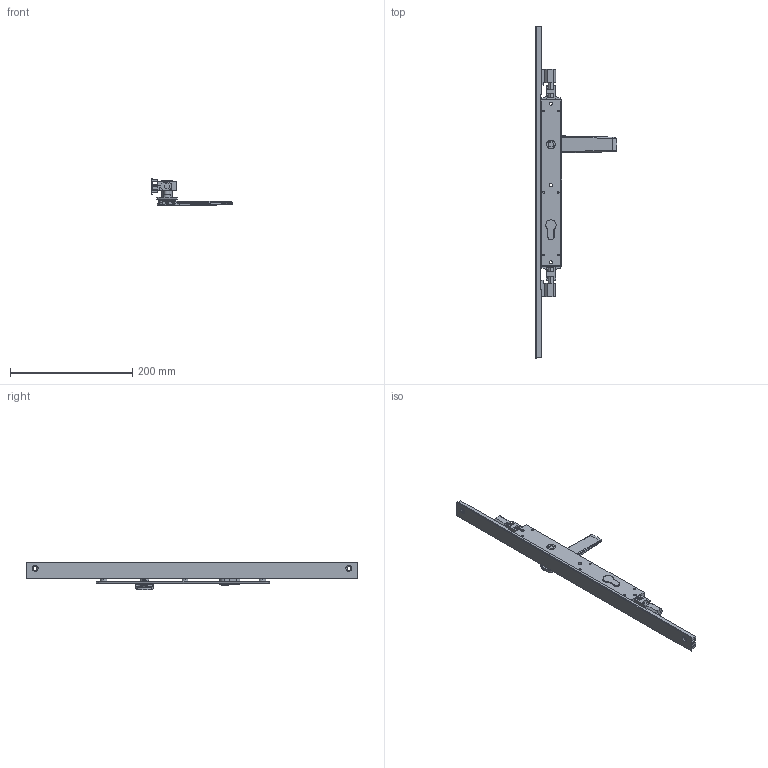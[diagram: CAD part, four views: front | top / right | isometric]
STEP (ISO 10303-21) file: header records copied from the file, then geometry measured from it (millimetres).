
FILE_DESCRIPTION (( 'STEP AP214' ), '1' );
FILE_NAME ('TPL-W-EU-617-U 06Nov2024.STEP', '2024-11-27T03:59:30', ( '' ), ( '' ), 'SwSTEP 2.0', 'SolidWorks 2023', '' );
FILE_SCHEMA (( 'AUTOMOTIVE_DESIGN' ));
Length unit declared in the file: millimetre
Products named in the file (19): Copy of Copy of LKC-531 Lock twinpoint transmission rod wood system^TPL-W-EU-117 04Nov2024_Standard Range 2891.7mm; TPL-W-EU-617-U 06Nov2024; Bolt.step; Copy (2) of COV-112-B Cover B suit TPLGen2 standard range^TPL-W-EU-117 04Nov2024_2870mm; Copy of Copy of Copy of LKC-531 Lock twinpoint transmission rod wood system^TPL-W-EU-117 04Nov2024_Standard Range 2891.7mm; Copy of LKC-584 Pivot body zinc - simplified^Copy of TPGen2 handle keyed internal zinc - simplified_TPL-W-EU-117 04Nov2024; Copy of TPLGen2 lock body keyed assembly^TPL-W-EU-117 04Nov2024_Bolts retracted; Copy of Adapter DnF - simplfied^TPL-W-EU-117 04Nov2024_26mm backset; Copy of LKC-585 Rotator body zinc^Copy of TPGen2 handle keyed internal zinc - simplified_TPL-W-EU-117 04Nov2024; Copy of Adapter CnE - simplfied^TPL-W-EU-117 04Nov2024_26mm backset; Copy of TPLGen2 lock body keyed^Copy of TPLGen2 lock body keyed assembly_TPL-W-EU-117 04Nov2024; Copy of COV-112-C Cover C TPLGen2 Lock body^TPL-W-EU-117 04Nov2024; Copy of LKC-505 Swing handle zinc - simplified^Copy of TPGen2 handle keyed internal zinc - simplified_TPL-W-EU-117 04Nov2024; Copy of LKC-586 Spindle square 8mm with M4 hole^Copy of TPGen2 handle keyed internal zinc - simplified_TPL-W-EU-117 04Nov2024_25mm; Copy of COV-112-A Cover A suit TPLGen2 standard range^TPL-W-EU-117 04Nov2024_2870mm; Copy of TPLGen2 push rod - simplified^Copy of TPLGen2 lock body keyed assembly_TPL-W-EU-117 04Nov2024_Female thread M10; Copy of LKC-512 Escutcheon plate keyed internal 285mm long zinc - simplified^Copy of TPGen2 handle keyed internal zinc - simplified_TPL-W-EU-117 04Nov2024; Copy of TPL-W-EU-130 04Nov2024^TPL-W-EU-117 04Nov2024_TPL-022 Right; Copy of TPGen2 handle keyed internal zinc - simplified^TPL-W-EU-117 04Nov2024_Left
Assembly tree (16 placements, depth 3):
  TPL-W-EU-617-U 06Nov2024
    Copy of TPLGen2 lock body keyed assembly^TPL-W-EU-117 04Nov2024_Bolts retracted
      Copy of TPLGen2 lock body keyed^Copy of TPLGen2 lock body keyed assembly_TPL-W-EU-117 04Nov2024
      Copy of TPLGen2 push rod - simplified^Copy of TPLGen2 lock body keyed assembly_TPL-W-EU-117 04Nov2024_Female thread M10  x2
    Copy of TPGen2 handle keyed internal zinc - simplified^TPL-W-EU-117 04Nov2024_Left
      Copy of LKC-512 Escutcheon plate keyed internal 285mm long zinc - simplified^Copy of TPGen2 handle keyed internal zinc - simplified_TPL-W-EU-117 04Nov2024
      Copy of LKC-505 Swing handle zinc - simplified^Copy of TPGen2 handle keyed internal zinc - simplified_TPL-W-EU-117 04Nov2024
      Copy of LKC-585 Rotator body zinc^Copy of TPGen2 handle keyed internal zinc - simplified_TPL-W-EU-117 04Nov2024
      Copy of LKC-586 Spindle square 8mm with M4 hole^Copy of TPGen2 handle keyed internal zinc - simplified_TPL-W-EU-117 04Nov2024_25mm
      Copy of LKC-584 Pivot body zinc - simplified^Copy of TPGen2 handle keyed internal zinc - simplified_TPL-W-EU-117 04Nov2024
    Copy of TPL-W-EU-130 04Nov2024^TPL-W-EU-117 04Nov2024_TPL-022 Right
    Copy of COV-112-C Cover C TPLGen2 Lock body^TPL-W-EU-117 04Nov2024
    Copy of Copy of LKC-531 Lock twinpoint transmission rod wood system^TPL-W-EU-117 04Nov2024_Standard Range 2891.7mm
    Copy of Copy of Copy of LKC-531 Lock twinpoint transmission rod wood system^TPL-W-EU-117 04Nov2024_Standard Range 2891.7mm
    Copy of Adapter CnE - simplfied^TPL-W-EU-117 04Nov2024_26mm backset
    Copy of Adapter DnF - simplfied^TPL-W-EU-117 04Nov2024_26mm backset
  Bolt.step
  Copy (2) of COV-112-B Cover B suit TPLGen2 standard range^TPL-W-EU-117 04Nov2024_2870mm
  Copy of COV-112-A Cover A suit TPLGen2 standard range^TPL-W-EU-117 04Nov2024_2870mm
Bounding box: 134.12 x 544 x 45.86 mm (x, y, z)
Volume: 282920.2 mm3; surface area: 139916.2 mm2
Topology: 14 solids, 14 shells, 920 faces, 2290 edges, 1428 vertices
Faces by surface type: plane 325, bspline 241, cylinder 229, cone 71, torus 46, sphere 8
Entity records: 33075 total; most frequent: CARTESIAN_POINT 13046, ORIENTED_EDGE 4388, DIRECTION 3625, EDGE_CURVE 2194, VERTEX_POINT 1368, AXIS2_PLACEMENT_3D 1333, EDGE_LOOP 984, VECTOR 959
